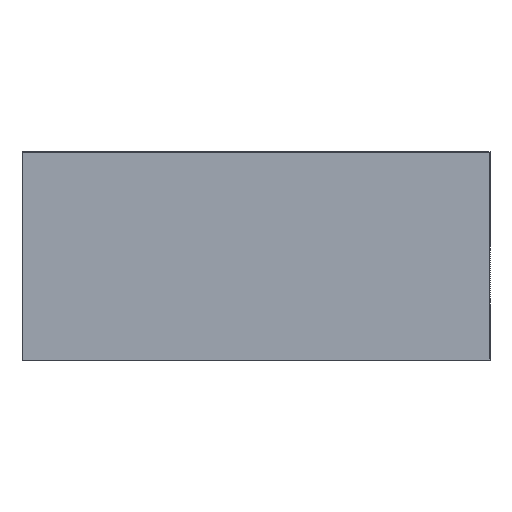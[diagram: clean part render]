
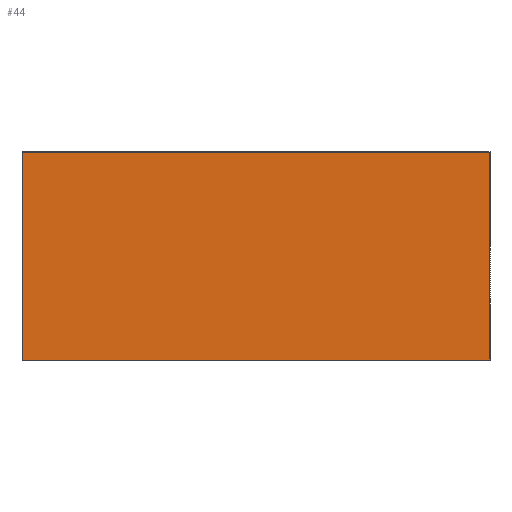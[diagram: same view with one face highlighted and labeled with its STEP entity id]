
A CAD part, left-side view. The second image highlights one B-rep face of the part: STEP entity #44.
In plain terms, the highlighted planar face has unit normal (-1, 0, 0).
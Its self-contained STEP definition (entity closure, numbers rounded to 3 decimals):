
#44 = ADVANCED_FACE( '', ( #95 ), #96, .F. );
#95 = FACE_OUTER_BOUND( '', #154, .T. );
#96 = PLANE( '', #155 );
#154 = EDGE_LOOP( '', ( #214, #215, #216, #217 ) );
#155 = AXIS2_PLACEMENT_3D( '', #218, #219, #220 );
#214 = ORIENTED_EDGE( '', *, *, #332, .F. );
#215 = ORIENTED_EDGE( '', *, *, #333, .T. );
#216 = ORIENTED_EDGE( '', *, *, #334, .F. );
#217 = ORIENTED_EDGE( '', *, *, #335, .F. );
#218 = CARTESIAN_POINT( '', ( -3.5, -27., 0. ) );
#219 = DIRECTION( '', ( 1., 0., 0. ) );
#220 = DIRECTION( '', ( 0., 0., -1. ) );
#332 = EDGE_CURVE( '', #383, #384, #385, .T. );
#333 = EDGE_CURVE( '', #383, #386, #387, .T. );
#334 = EDGE_CURVE( '', #388, #386, #389, .T. );
#335 = EDGE_CURVE( '', #384, #388, #390, .T. );
#383 = VERTEX_POINT( '', #502 );
#384 = VERTEX_POINT( '', #503 );
#385 = LINE( '', #504, #505 );
#386 = VERTEX_POINT( '', #506 );
#387 = LINE( '', #507, #508 );
#388 = VERTEX_POINT( '', #509 );
#389 = LINE( '', #510, #511 );
#390 = LINE( '', #512, #513 );
#502 = CARTESIAN_POINT( '', ( -3.5, -27., 6. ) );
#503 = CARTESIAN_POINT( '', ( -3.5, -27., -6. ) );
#504 = CARTESIAN_POINT( '', ( -3.5, -27., 6. ) );
#505 = VECTOR( '', #634, 1000. );
#506 = CARTESIAN_POINT( '', ( -3.5, 0., 6. ) );
#507 = CARTESIAN_POINT( '', ( -3.5, -27., 6. ) );
#508 = VECTOR( '', #635, 1000. );
#509 = CARTESIAN_POINT( '', ( -3.5, 0., -6. ) );
#510 = CARTESIAN_POINT( '', ( -3.5, 0., -6. ) );
#511 = VECTOR( '', #636, 1000. );
#512 = CARTESIAN_POINT( '', ( -3.5, -27., -6. ) );
#513 = VECTOR( '', #637, 1000. );
#634 = DIRECTION( '', ( 0., 0., -1. ) );
#635 = DIRECTION( '', ( 0., 1., 0. ) );
#636 = DIRECTION( '', ( 0., 0., 1. ) );
#637 = DIRECTION( '', ( 0., 1., 0. ) );
